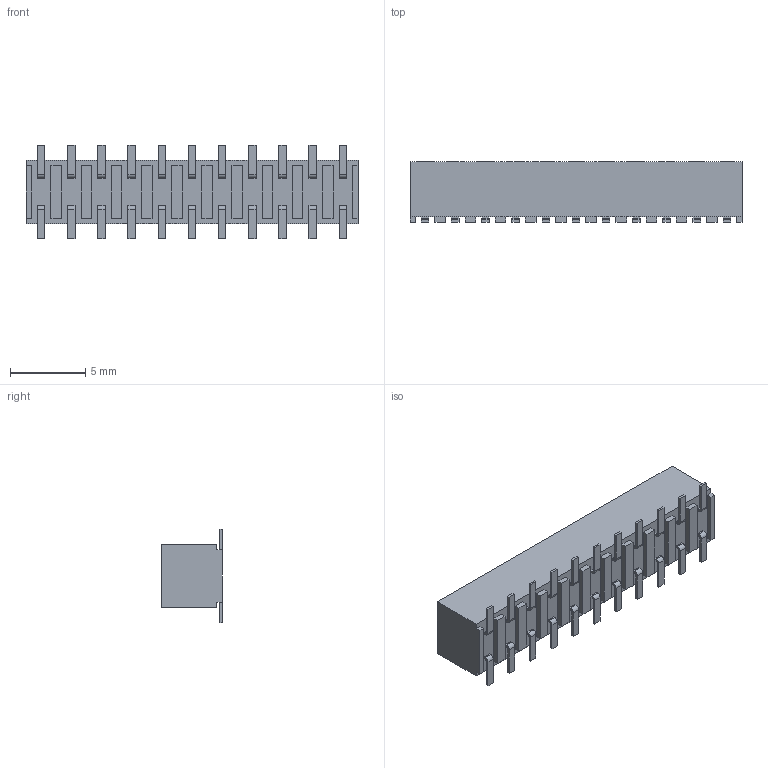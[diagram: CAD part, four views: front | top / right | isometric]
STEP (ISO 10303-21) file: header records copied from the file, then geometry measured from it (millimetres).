
FILE_DESCRIPTION((''),'2;1');
FILE_NAME('873812237','2018-10-26T',('gga'),(''),'PRO/ENGINEER BY PARAMETRIC TECHNOLOGY CORPORATION, 2016010','PRO/ENGINEER BY PARAMETRIC TECHNOLOGY CORPORATION, 2016010','');
FILE_SCHEMA(('CONFIG_CONTROL_DESIGN'));
Length unit declared in the file: millimetre
Products named in the file (1): 873812237
Bounding box: 22 x 4 x 6.2 mm (x, y, z)
Volume: 344.7 mm3; surface area: 497.9 mm2
Topology: 1 solids, 1 shells, 460 faces, 1212 edges, 808 vertices
Faces by surface type: plane 416, cylinder 44
Entity records: 13789 total; most frequent: CARTESIAN_POINT 2393, ORIENTED_EDGE 2248, DIRECTION 2222, VECTOR 1124, LINE 1124, EDGE_CURVE 1124, VERTEX_POINT 720, AXIS2_PLACEMENT_3D 549
